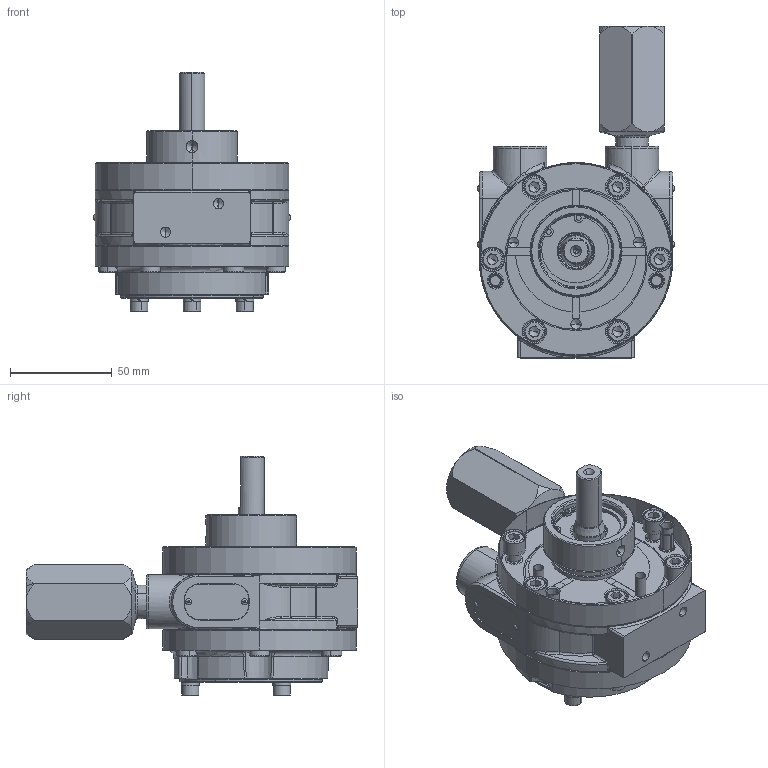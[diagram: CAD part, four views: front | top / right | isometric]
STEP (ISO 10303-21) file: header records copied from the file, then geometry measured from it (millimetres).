
FILE_DESCRIPTION (( 'STEP AP214' ), '1' );
FILE_NAME ('2VMT (Hub)_Solid 29-07-25.STEP', '2025-07-29T10:40:49', ( '' ), ( '' ), 'SwSTEP 2.0', 'SolidWorks 2017', '' );
FILE_SCHEMA (( 'AUTOMOTIVE_DESIGN' ));
Length unit declared in the file: millimetre
Products named in the file (2): 2VMT (Hub)_Solid 29-07-25
Bounding box: 96.6 x 163 x 117.43 mm (x, y, z)
Volume: 462809.8 mm3; surface area: 176231.1 mm2
Topology: 69 solids, 69 shells, 1871 faces, 4419 edges, 2665 vertices
Faces by surface type: plane 659, cylinder 547, cone 349, torus 226, bspline 78, sphere 12
Entity records: 88003 total; most frequent: CARTESIAN_POINT 43485, DIRECTION 9388, ORIENTED_EDGE 8638, EDGE_CURVE 4319, AXIS2_PLACEMENT_3D 3736, VERTEX_POINT 2665, EDGE_LOOP 2108, CIRCLE 1941
